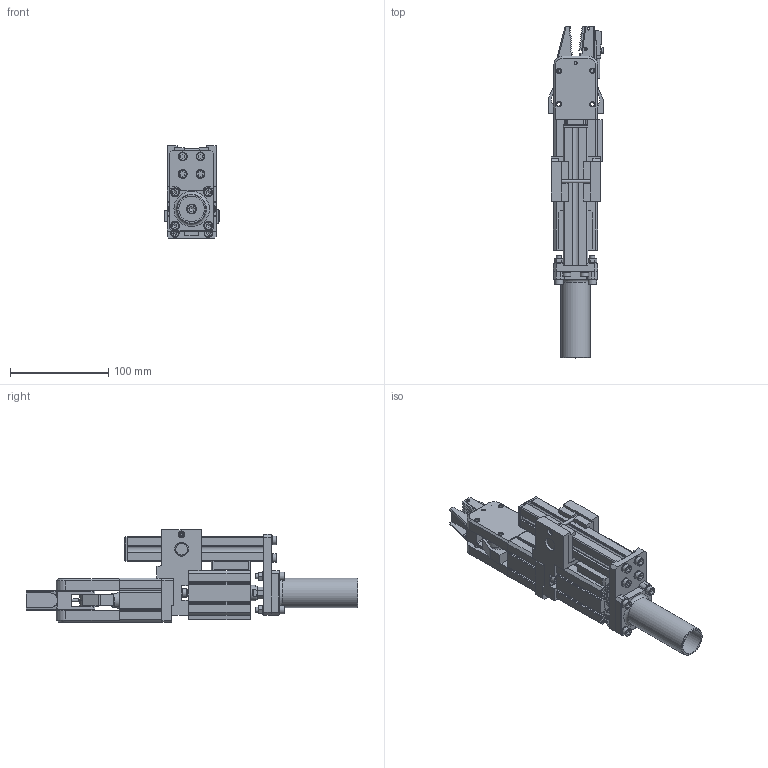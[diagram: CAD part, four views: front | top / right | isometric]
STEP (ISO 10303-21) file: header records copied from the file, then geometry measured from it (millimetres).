
FILE_DESCRIPTION(/* description */ ('GR04.332-30-1P'),/* implementation_level */ '2;1');
FILE_NAME(/* name */ 'W:\Product Management\18_Produkt_Pflege\2022\Neuheiten\EOAT\GR04.332\03_Kunden CADs\GR04.332-30-1P.stp',/* time_stamp */ '2022-07-11T09:04:29+02:00',/* author */ ('lcugaly'),/* organization */ (''),/* preprocessor_version */ 'ST-DEVELOPER v18',/* originating_system */ 'Autodesk Inventor 2020',/* authorisation */ '');
FILE_SCHEMA (('AUTOMOTIVE_DESIGN { 1 0 10303 214 3 1 1 }'));
Products named in the file (60): 0795448; 0795492; 0795491; 0770726_GR04.332-003-02; 0785411; 0770727; 0785296; 0785323; 0795388; 0795367; 0785302; 0785370; 0795373; 0795347; ISO 4762 M5 x 20; 0785310; 0785388; 0778416; 0795484; 0795195; 0785269; 0774429; 0770827; 0770827_1; 0778414; 0770828; GR04.325-006:140; 0770708; 0785375; 0774281; 0774279; 0774282; 0774278; 0770929; 0778413; 0770880; 0770881; 0770883; 0770861; 0770877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
Assembly tree (98 placements, depth 4):
  0795448
    0795492
      0795491
      0770726_GR04.332-003-02  x2
      0785411
      0770727
      0785296
      0785323  x2
      0778414  x2
    0795388
      0795367
      0778414  x8
      0785302  x4
      0785370  x4
    0795373
      0795347
      0778414  x4
      ISO 4762 M5 x 20  x4
      0785310
      0785388
      0778416
    0795484
      0795195
      0785269  x2
      0774429
    0770827
      0770827_1
      0778414  x4
      0770828  x4
    GR04.325-006:140
    0770708
    0785375  x4
    0774281
      0774279
      0774282
      0774278
    0770929
      0778413
      0770880
      0770881
      0770883
      0770861
      0770877
      0770864
        0770879
        0770873  x2
        0770884
      0770925
        0770939
        0770873
        0770934
        0770937  x2
        0770936
        0770944
        0770927
        ISO 4026 - M3 x 10
      0770935
      0780859
      0778418
      0770869
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Bounding box: 56.8 x 337.49 x 94.5 mm (x, y, z)
Volume: 495504 mm3; surface area: 234569.1 mm2
Topology: 93 solids, 93 shells, 3329 faces, 7687 edges, 4682 vertices
Faces by surface type: plane 2390, cylinder 466, bspline 239, cone 182, torus 45, sphere 7
Full cylindrical faces by diameter (mm): 1.714 x1, 1.8 x1, 2.2 x2, 2.288 x1, 2.459 x3, 2.5 x4, 3 x11, 3.2 x2, 3.242 x1, 3.3 x1, 3.5 x3, 3.8 x1, 4 x6, 4.134 x28, 4.2 x2, 4.3 x1, 4.8 x1, 4.917 x13, 5 x20, 5.3 x30, 5.4 x1, 5.5 x13, 5.7 x4, 6 x14, 6.4 x1, 6.647 x3, 6.8 x1, 7 x6, 7.8 x1, 8 x8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
Entity records: 86814 total; most frequent: CARTESIAN_POINT 18218, ORIENTED_EDGE 13540, DIRECTION 13167, EDGE_CURVE 6770, LINE 4915, VECTOR 4915, AXIS2_PLACEMENT_3D 4126, VERTEX_POINT 4062
